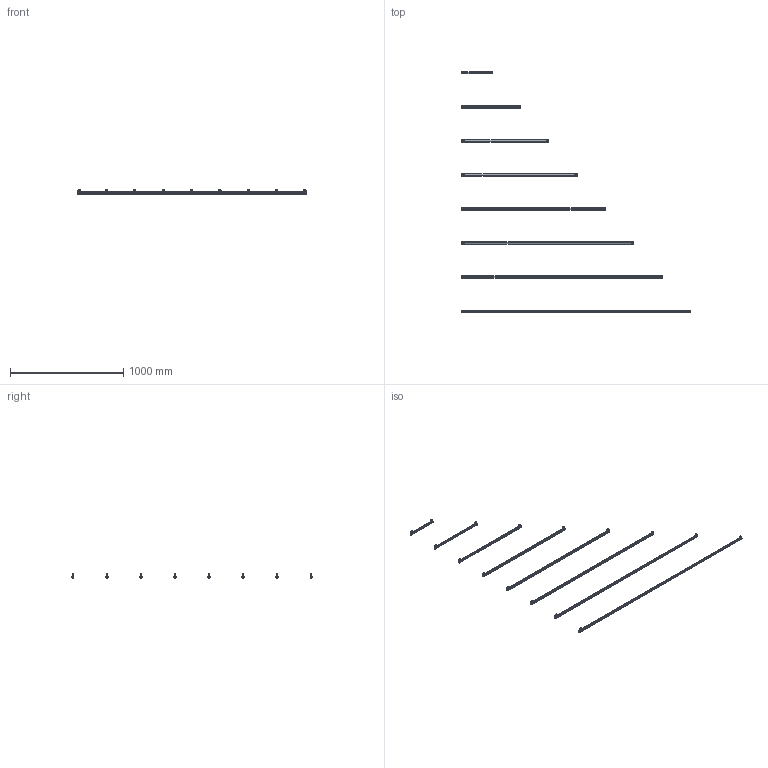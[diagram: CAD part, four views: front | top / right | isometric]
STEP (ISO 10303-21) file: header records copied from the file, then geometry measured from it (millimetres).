
FILE_DESCRIPTION(/* description */ (''),/* implementation_level */ '2;1');
FILE_NAME(/* name */ 'C:/Users/elena/OneDrive/Allegati di posta elettronica/Desktop/Piko colour 01D.step',/* time_stamp */ '2020-05-19T11:50:38+02:00',/* author */ (''),/* organization */ (''),/* preprocessor_version */ 'ST-DEVELOPER v18.1',/* originating_system */ 'Autodesk Translation Framework v9.3.0.1241',/* authorisation */ '');
FILE_SCHEMA (('AUTOMOTIVE_DESIGN { 1 0 10303 214 3 1 1 }'));
Products named in the file (2): (Unsaved); 01D
Assembly tree (1 placements, depth 2):
  (Unsaved)
    01D
Bounding box: 2020 x 2119.8 x 37.3 mm (x, y, z)
Volume: 2240855.2 mm3; surface area: 1094128.5 mm2
Topology: 48 solids, 64 shells, 1681 faces, 3832 edges, 2391 vertices
Faces by surface type: plane 833, cylinder 688, bspline 144, cone 16
Full cylindrical faces by diameter (mm): 2.5 x48, 3 x16, 6 x48, 6.2 x16, 10 x16, 13 x32, 19.8 x16
Entity records: 79649 total; most frequent: CARTESIAN_POINT 41446, DIRECTION 8272, ORIENTED_EDGE 7664, EDGE_CURVE 3832, AXIS2_PLACEMENT_3D 3220, VERTEX_POINT 2391, EDGE_LOOP 1857, LINE 1832
